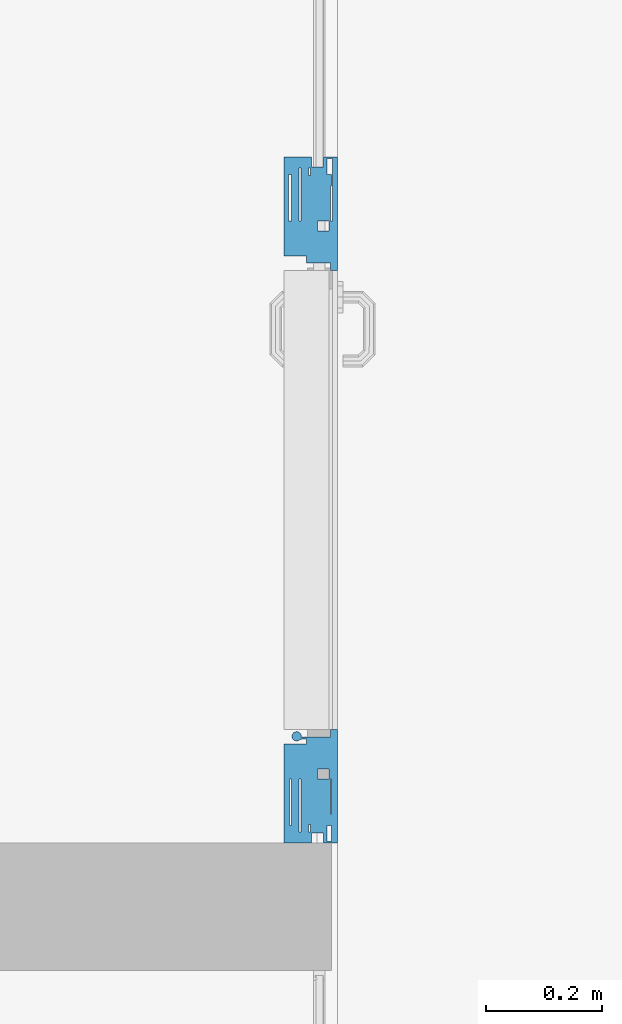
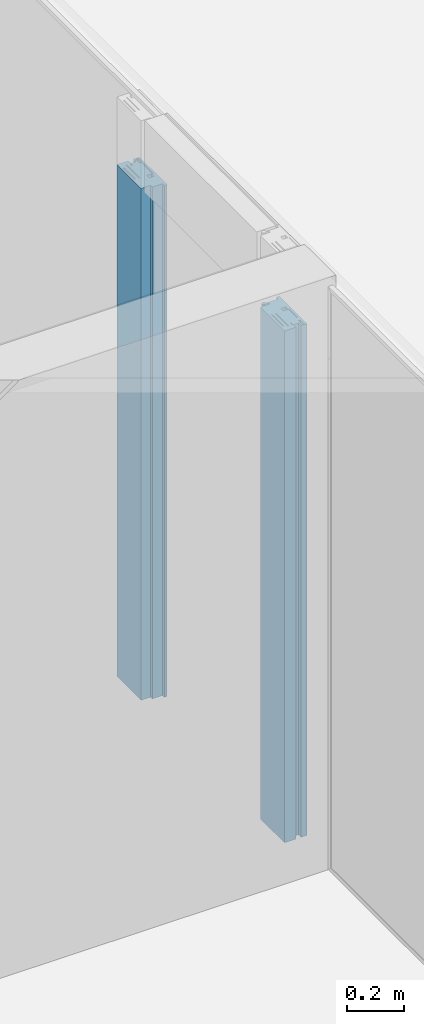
# One storey, part 3 of 79: 2 members, 1 element without a shape of its own.
"""IFC2X3 building model written with IfcOpenShell, lengths in millimetres."""

from ifc_helpers import new_model, entity, si_unit, converted_unit, derived_unit, money_unit, direction, frame, origin_with_axes, place, context, subcontext, project, spatial, faceted_brep, source, transform, mapped, material, material_list, type_object, element, aggregate, save


model = new_model("IFC2X3")

# Units and contexts
model_context = context("Model", 3, precision=0.01, world=origin_with_axes(), true_north=direction((0.0, 1.0)))
body_context = subcontext(model_context, "Body", "Model", "MODEL_VIEW")
ifc_project = project(units=[si_unit("LENGTHUNIT", "METRE", prefix="MILLI"), si_unit("AREAUNIT", "SQUARE_METRE"), si_unit("VOLUMEUNIT", "CUBIC_METRE"), converted_unit("PLANEANGLEUNIT", "DEGREE", entity("IfcPlaneAngleMeasure", 0.0174532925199), si_unit("PLANEANGLEUNIT", "RADIAN"), dimensions=[0, 0, 0, 0, 0, 0, 0]), si_unit("SOLIDANGLEUNIT", "STERADIAN"), money_unit("EUR"), converted_unit("TIMEUNIT", "Year", entity("IfcTimeMeasure", 31556926.0), si_unit("TIMEUNIT", "SECOND"), dimensions=[0, 0, 1, 0, 0, 0, 0]), si_unit("MASSUNIT", "GRAM", prefix="KILO"), si_unit("THERMODYNAMICTEMPERATUREUNIT", "DEGREE_CELSIUS"), si_unit("LUMINOUSINTENSITYUNIT", "LUMEN"), si_unit("ENERGYUNIT", "JOULE", prefix="MEGA"), derived_unit("THERMALCONDUCTANCEUNIT", [(si_unit("POWERUNIT", "WATT"), 1), (si_unit("LENGTHUNIT", "METRE"), -1), (si_unit("THERMODYNAMICTEMPERATUREUNIT", "KELVIN"), -1)]), derived_unit("SPECIFICHEATCAPACITYUNIT", [(si_unit("ENERGYUNIT", "JOULE"), 1), (si_unit("MASSUNIT", "GRAM", prefix="KILO"), -1), (si_unit("THERMODYNAMICTEMPERATUREUNIT", "KELVIN"), -1)]), derived_unit("MASSDENSITYUNIT", [(si_unit("MASSUNIT", "GRAM", prefix="KILO"), 1), (si_unit("VOLUMEUNIT", "CUBIC_METRE"), -1)])], contexts=[model_context])

# Site, building, storey
site_placement = place(None, origin_with_axes())
site = spatial("IfcSite", under=ifc_project, at=site_placement, Name="L.Koidula tn 11b", CompositionType="ELEMENT")
building_placement = place(site_placement, origin_with_axes())
building = spatial("IfcBuilding", under=site, at=building_placement, Name="Rakvere Riigigümnaasium", CompositionType="ELEMENT")
storey_placement = place(building_placement, frame((0.0, 0.0, 3720.0), z_axis=(0.0, 0.0, 1.0), x_axis=(1.0, 0.0, 0.0)))
storey = spatial("IfcBuildingStorey", under=building, at=storey_placement, Name="2.korrus +3,72", CompositionType="ELEMENT", Elevation=3720.0)

# Curtain wall, members
curtain_wall_type = type_object("IfcCurtainWallType", Name="Curtain Wall Type", PredefinedType="NOTDEFINED")
curtain_wall_placement = place(storey_placement, frame((41130.9157939, 20570.4555219, 2.41342252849e-05), z_axis=(0.0, 0.0, 1.0), x_axis=(1.0, 0.0, 0.0)))
curtain_wall = element("IfcCurtainWall", 1, at=curtain_wall_placement, inside=storey, type_object=curtain_wall_type, Name="SKLF-13")
ifc_material_1 = material(Name="Puit")
ifc_material_2 = material(Name="Klaasvill")
ifc_material_3 = material(Name="MDF")
ifc_material_4 = material(Name="Alumiiniumprofiil")
ifc_material_5 = material(Name="Teras")
ifc_material_list_1 = material_list([ifc_material_1, ifc_material_2, ifc_material_3, ifc_material_4, ifc_material_5])
member_type_1 = type_object("IfcMemberType", Name="Siseklaasfassaad - Ukseraam hing- klaasita-2 195 x 29", PredefinedType="MULLION")
shared_shape_1 = source(origin_with_axes(), body_context, "Body", "Brep", [
    faceted_brep([(139.859682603, -15.116905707, 0.0), (181.717061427, -15.116905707, 0.0), (181.717061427, -15.116905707, 2200.0), (139.859682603, -15.116905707, 2200.0), (139.859682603, 50.9999990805, 0.0), (169.859682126, 50.9999990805, 0.0), (169.859683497, 23.9999989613, 0.0), (178.395629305, 23.9999989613, 0.0), (178.395629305, -8.00000062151, 0.0), (181.855103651, -8.00000062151, 0.0), (181.855103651, -15.116905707, 0.0), (181.855103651, -15.116905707, 2200.0), (181.855103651, -8.00000062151, 2200.0), (178.395629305, -8.00000062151, 2200.0), (178.395629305, 23.9999989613, 2200.0), (169.859683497, 23.9999989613, 2200.0), (169.859682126, 50.9999990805, 2200.0), (139.859682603, 50.9999990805, 2200.0)], [[[0, 1, 2, 3]], [[0, 4, 5, 6, 7, 8, 9, 10, 1]], [[1, 10, 11, 2]], [[3, 2, 11, 12, 13, 14, 15, 16, 17]], [[4, 0, 3, 17]], [[5, 4, 17, 16]], [[6, 5, 16, 15]], [[7, 6, 15, 14]], [[8, 7, 14, 13]], [[9, 8, 13, 12]], [[10, 9, 12, 11]]]),
    faceted_brep([(31.9999999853, 20.4981590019, 0.0), (31.9999999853, 17.3999984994, 0.0), (31.9999999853, 17.3999984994, 2200.0), (31.9999999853, 20.4981590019, 2200.0), (109.856776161, 20.498157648, 0.0), (109.856777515, 5.39999855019, 0.0), (109.856777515, -15.0000008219, 0.0), (109.856777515, -16.9999999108, 0.0), (50.0000012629, -17.0000026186, 0.0), (31.9999999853, -16.9999999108, 0.0), (31.9999999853, -10.9998686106, 0.0), (31.9999999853, -4.99999996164, 0.0), (31.9999999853, -4.99999996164, 2200.0), (31.9999999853, -10.9998686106, 2200.0), (31.9999999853, -16.9999999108, 2200.0), (50.0000012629, -17.0000026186, 2200.0), (109.856777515, -16.9999999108, 2200.0), (109.856777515, -15.0000008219, 2200.0), (109.856777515, 5.39999855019, 2200.0), (109.856776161, 20.498157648, 2200.0)], [[[0, 1, 2, 3]], [[0, 4, 5, 6, 7, 8, 9, 10, 11, 1]], [[1, 11, 12, 2]], [[3, 2, 12, 13, 14, 15, 16, 17, 18, 19]], [[4, 0, 3, 19]], [[5, 4, 19, 18]], [[6, 5, 18, 17]], [[7, 6, 17, 16]], [[8, 7, 16, 15]], [[9, 8, 15, 14]], [[10, 9, 14, 13]], [[11, 10, 13, 12]]]),
    faceted_brep([(2.00000016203, -18.9999768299, 0.0), (2.00000016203, -28.9999775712, 0.0), (2.00000016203, -28.9999775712, 2200.0), (2.00000016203, -18.9999768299, 2200.0), (29.9999993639, -18.9999998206, 0.0), (31.9999995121, -18.9999998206, 0.0), (50.0000008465, -18.9999998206, 0.0), (109.856776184, -18.9999797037, 0.0), (192.859682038, -18.9999768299, 0.0), (192.859682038, -28.9999775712, 0.0), (192.859682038, -28.9999775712, 2200.0), (192.859682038, -18.9999768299, 2200.0), (109.856776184, -18.9999797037, 2200.0), (50.0000008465, -18.9999998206, 2200.0), (31.9999995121, -18.9999998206, 2200.0), (29.9999993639, -18.9999998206, 2200.0)], [[[0, 1, 2, 3]], [[0, 4, 5, 6, 7, 8, 9, 1]], [[1, 9, 10, 2]], [[3, 2, 10, 11, 12, 13, 14, 15]], [[4, 0, 3, 15]], [[5, 4, 15, 14]], [[6, 5, 14, 13]], [[7, 6, 13, 12]], [[8, 7, 12, 11]], [[9, 8, 11, 10]]]),
    faceted_brep([(167.859682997, 63.0000007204, 0.0), (1.99999972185, 62.9999978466, 0.0), (1.99999972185, 62.9999978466, 2200.0), (167.859682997, 63.0000007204, 2200.0), (167.859682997, 52.9999999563, 0.0), (139.859683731, 52.9999999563, 0.0), (109.85677599, 52.9999999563, 0.0), (29.9999989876, 52.9999970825, 0.0), (18.6712801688, 52.9999970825, 0.0), (1.99999972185, 52.9999999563, 0.0), (1.99999972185, 52.9999999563, 2200.0), (18.6712801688, 52.9999970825, 2200.0), (29.9999989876, 52.9999970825, 2200.0), (109.85677599, 52.9999999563, 2200.0), (139.859683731, 52.9999999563, 2200.0), (167.859682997, 52.9999999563, 2200.0)], [[[0, 1, 2, 3]], [[0, 4, 5, 6, 7, 8, 9, 1]], [[1, 9, 10, 2]], [[3, 2, 10, 11, 12, 13, 14, 15]], [[4, 0, 3, 15]], [[5, 4, 15, 14]], [[6, 5, 14, 13]], [[7, 6, 13, 12]], [[8, 7, 12, 11]], [[9, 8, 11, 10]]]),
    faceted_brep([(18.9999998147, 33.492630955, 0.0), (18.9999998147, 20.5001075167, 0.0), (18.9999998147, 20.5001075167, 2200.0), (18.9999998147, 33.492630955, 2200.0), (109.856776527, 33.4906812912, 0.0), (109.856776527, 20.4981578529, 0.0), (31.9999999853, 20.4981590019, 0.0), (31.9999999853, 20.4981590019, 2200.0), (109.856776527, 20.4981578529, 2200.0), (109.856776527, 33.4906812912, 2200.0)], [[[0, 1, 2, 3]], [[0, 4, 5, 6, 1]], [[1, 6, 7, 2]], [[3, 2, 7, 8, 9]], [[4, 0, 3, 9]], [[5, 4, 9, 8]], [[6, 5, 8, 7]]]),
    faceted_brep([(109.854989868, 49.9999988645, 0.0), (19.0000000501, 50.0001085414, 0.0), (19.0000000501, 50.0001085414, 2200.0), (109.854989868, 49.9999988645, 2200.0), (109.854989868, 36.9999990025, 0.0), (19.0000000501, 37.0001070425, 0.0), (19.0000000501, 37.0001070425, 2200.0), (109.854989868, 36.9999990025, 2200.0)], [[[0, 1, 2, 3]], [[0, 4, 5, 1]], [[1, 5, 6, 2]], [[3, 2, 6, 7]], [[4, 0, 3, 7]], [[5, 4, 7, 6]]]),
    faceted_brep([(109.856776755, 52.9999991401, 0.0), (109.854989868, 49.9999988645, 0.0), (109.854989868, 49.9999988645, 2200.0), (109.856776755, 52.9999991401, 2200.0), (139.859682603, 52.9999991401, 0.0), (167.859682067, 52.9999991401, 0.0), (167.859682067, 62.9999994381, 0.0), (169.859682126, 62.9999994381, 0.0), (169.859682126, 54.9999991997, 0.0), (169.859682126, 50.9999990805, 0.0), (139.859682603, 50.9999990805, 0.0), (139.859682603, -15.116905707, 0.0), (181.717061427, -15.116905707, 0.0), (181.717061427, -17.0000002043, 0.0), (194.859682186, -17.0000002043, 0.0), (194.859682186, -20.0740464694, 0.0), (194.859682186, -29.0000005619, 0.0), (192.859683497, -29.0000005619, 0.0), (192.859683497, -18.9999783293, 0.0), (109.856776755, -18.9999783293, 0.0), (109.856777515, -16.9999999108, 0.0), (109.856776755, -15.0000001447, 0.0), (126.859682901, -15.0000001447, 0.0), (126.859682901, 5.39999991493, 0.0), (109.856776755, 5.39999991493, 0.0), (109.856776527, 20.4981578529, 0.0), (109.856776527, 33.4906812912, 0.0), (109.854989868, 36.9999990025, 0.0), (109.854989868, 36.9999990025, 2200.0), (109.856776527, 33.4906812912, 2200.0), (109.856776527, 20.4981578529, 2200.0), (109.856776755, 5.39999991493, 2200.0), (126.859682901, 5.39999991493, 2200.0), (126.859682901, -15.0000001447, 2200.0), (109.856776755, -15.0000001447, 2200.0), (109.856777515, -16.9999999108, 2200.0), (109.856776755, -18.9999783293, 2200.0), (192.859683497, -18.9999783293, 2200.0), (192.859683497, -29.0000005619, 2200.0), (194.859682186, -29.0000005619, 2200.0), (194.859682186, -20.0740464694, 2200.0), (194.859682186, -17.0000002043, 2200.0), (181.717061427, -17.0000002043, 2200.0), (181.717061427, -15.116905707, 2200.0), (139.859682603, -15.116905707, 2200.0), (139.859682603, 50.9999990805, 2200.0), (169.859682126, 50.9999990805, 2200.0), (169.859682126, 54.9999991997, 2200.0), (169.859682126, 62.9999994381, 2200.0), (167.859682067, 62.9999994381, 2200.0), (167.859682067, 52.9999991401, 2200.0), (139.859682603, 52.9999991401, 2200.0)], [[[0, 1, 2, 3]], [[0, 4, 5, 6, 7, 8, 9, 10, 11, 12, 13, 14, 15, 16, 17, 18, 19, 20, 21, 22, 23, 24, 25, 26, 27, 1]], [[1, 27, 28, 2]], [[3, 2, 28, 29, 30, 31, 32, 33, 34, 35, 36, 37, 38, 39, 40, 41, 42, 43, 44, 45, 46, 47, 48, 49, 50, 51]], [[4, 0, 3, 51]], [[5, 4, 51, 50]], [[6, 5, 50, 49]], [[7, 6, 49, 48]], [[8, 7, 48, 47]], [[9, 8, 47, 46]], [[10, 9, 46, 45]], [[11, 10, 45, 44]], [[12, 11, 44, 43]], [[13, 12, 43, 42]], [[14, 13, 42, 41]], [[15, 14, 41, 40]], [[16, 15, 40, 39]], [[17, 16, 39, 38]], [[18, 17, 38, 37]], [[19, 18, 37, 36]], [[20, 19, 36, 35]], [[21, 20, 35, 34]], [[22, 21, 34, 33]], [[23, 22, 33, 32]], [[24, 23, 32, 31]], [[25, 24, 31, 30]], [[26, 25, 30, 29]], [[27, 26, 29, 28]]]),
    faceted_brep([(0.0, 62.9999994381, 0.0), (0.0, 15.3999992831, 0.0), (0.0, 15.3999992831, 2200.0), (0.0, 62.9999994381, 2200.0), (1.99999958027, 62.9999994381, 0.0), (2.00000095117, 52.999998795, 0.0), (18.6712817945, 52.999998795, 0.0), (29.9999991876, 52.999998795, 0.0), (29.9999991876, 50.0001084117, 0.0), (19.0000008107, 50.0001084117, 0.0), (19.0000000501, 37.0001070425, 0.0), (18.9999998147, 33.492630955, 0.0), (18.9999998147, 20.5001075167, 0.0), (19.0000008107, 17.3999988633, 0.0), (32.0000001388, 17.3999988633, 0.0), (32.0000001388, -5.0, 0.0), (32.0000001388, -10.9998685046, 0.0), (32.0000001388, -17.0000015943, 0.0), (50.0000004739, -17.0000015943, 0.0), (50.0000004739, -18.9999998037, 0.0), (32.0000001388, -18.9999998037, 0.0), (30.0000005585, -18.9999998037, 0.0), (30.0000005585, -17.0000015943, 0.0), (30.0000005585, -10.9998685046, 0.0), (2.00000095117, -10.9998685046, 0.0), (2.00000016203, -18.9999768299, 0.0), (2.00000095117, -28.9999785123, 0.0), (0.0, -28.9999785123, 0.0), (0.0, -5.0, 0.0), (2.00000095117, -5.0, 0.0), (16.9999998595, -5.0, 0.0), (16.9999998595, 15.3999992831, 0.0), (16.9999998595, 15.3999992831, 2200.0), (16.9999998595, -5.0, 2200.0), (2.00000095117, -5.0, 2200.0), (0.0, -5.0, 2200.0), (0.0, -28.9999785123, 2200.0), (2.00000095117, -28.9999785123, 2200.0), (2.00000016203, -18.9999768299, 2200.0), (2.00000095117, -10.9998685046, 2200.0), (30.0000005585, -10.9998685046, 2200.0), (30.0000005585, -17.0000015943, 2200.0), (30.0000005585, -18.9999998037, 2200.0), (32.0000001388, -18.9999998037, 2200.0), (50.0000004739, -18.9999998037, 2200.0), (50.0000004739, -17.0000015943, 2200.0), (32.0000001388, -17.0000015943, 2200.0), (32.0000001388, -10.9998685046, 2200.0), (32.0000001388, -5.0, 2200.0), (32.0000001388, 17.3999988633, 2200.0), (19.0000008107, 17.3999988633, 2200.0), (18.9999998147, 20.5001075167, 2200.0), (18.9999998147, 33.492630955, 2200.0), (19.0000000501, 37.0001070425, 2200.0), (19.0000008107, 50.0001084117, 2200.0), (29.9999991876, 50.0001084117, 2200.0), (29.9999991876, 52.999998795, 2200.0), (18.6712817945, 52.999998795, 2200.0), (2.00000095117, 52.999998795, 2200.0), (1.99999958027, 62.9999994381, 2200.0)], [[[0, 1, 2, 3]], [[0, 4, 5, 6, 7, 8, 9, 10, 11, 12, 13, 14, 15, 16, 17, 18, 19, 20, 21, 22, 23, 24, 25, 26, 27, 28, 29, 30, 31, 1]], [[1, 31, 32, 2]], [[3, 2, 32, 33, 34, 35, 36, 37, 38, 39, 40, 41, 42, 43, 44, 45, 46, 47, 48, 49, 50, 51, 52, 53, 54, 55, 56, 57, 58, 59]], [[4, 0, 3, 59]], [[5, 4, 59, 58]], [[6, 5, 58, 57]], [[7, 6, 57, 56]], [[8, 7, 56, 55]], [[9, 8, 55, 54]], [[10, 9, 54, 53]], [[11, 10, 53, 52]], [[12, 11, 52, 51]], [[13, 12, 51, 50]], [[14, 13, 50, 49]], [[15, 14, 49, 48]], [[16, 15, 48, 47]], [[17, 16, 47, 46]], [[18, 17, 46, 45]], [[19, 18, 45, 44]], [[20, 19, 44, 43]], [[21, 20, 43, 42]], [[22, 21, 42, 41]], [[23, 22, 41, 40]], [[24, 23, 40, 39]], [[25, 24, 39, 38]], [[26, 25, 38, 37]], [[27, 26, 37, 36]], [[28, 27, 36, 35]], [[29, 28, 35, 34]], [[30, 29, 34, 33]], [[31, 30, 33, 32]]]),
    faceted_brep([(191.287294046, 42.0314837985, 0.0), (189.304437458, 46.4929115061, 0.0), (189.304437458, 46.4929115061, 2200.0), (191.287294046, 42.0314837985, 2200.0), (191.287294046, 39.5529134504, 0.0), (190.543723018, 37.0712444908, 0.0), (188.808723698, 35.0883879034, 0.0), (186.82586711, 33.6012450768, 0.0), (184.34729599, 32.8576740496, 0.0), (181.86562703, 33.1055313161, 0.0), (181.658588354, 33.5817206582, 0.0), (181.86562703, 32.1141030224, 0.0), (181.855103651, -8.00000062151, 0.0), (178.395628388, -8.00000056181, 0.0), (178.395629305, 23.9999989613, 0.0), (178.395628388, 31.1195761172, 0.0), (178.147771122, 33.1055313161, 0.0), (177.404200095, 34.840530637, 0.0), (176.164914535, 37.3221995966, 0.0), (175.421343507, 39.7976721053, 0.0), (175.421343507, 42.279341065, 0.0), (176.164914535, 44.7579114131, 0.0), (177.652057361, 46.7407680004, 0.0), (179.882770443, 48.227910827, 0.0), (182.364439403, 48.9714818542, 0.0), (184.843010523, 48.9714818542, 0.0), (187.073723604, 47.9800535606, 0.0), (187.073723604, 47.9800535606, 2200.0), (184.843010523, 48.9714818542, 2200.0), (182.364439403, 48.9714818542, 2200.0), (179.882770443, 48.227910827, 2200.0), (177.652057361, 46.7407680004, 2200.0), (176.164914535, 44.7579114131, 2200.0), (175.421343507, 42.279341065, 2200.0), (175.421343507, 39.7976721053, 2200.0), (176.164914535, 37.3221995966, 2200.0), (177.404200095, 34.840530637, 2200.0), (178.147771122, 33.1055313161, 2200.0), (178.395628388, 31.1195761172, 2200.0), (178.395629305, 23.9999989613, 2200.0), (178.395628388, -8.00000056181, 2200.0), (181.855103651, -8.00000062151, 2200.0), (181.86562703, 32.1141030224, 2200.0), (181.658588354, 33.5817206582, 2200.0), (181.86562703, 33.1055313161, 2200.0), (184.34729599, 32.8576740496, 2200.0), (186.82586711, 33.6012450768, 2200.0), (188.808723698, 35.0883879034, 2200.0), (190.543723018, 37.0712444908, 2200.0), (191.287294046, 39.5529134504, 2200.0)], [[[0, 1, 2, 3]], [[0, 4, 5, 6, 7, 8, 9, 10, 11, 12, 13, 14, 15, 16, 17, 18, 19, 20, 21, 22, 23, 24, 25, 26, 1]], [[1, 26, 27, 2]], [[3, 2, 27, 28, 29, 30, 31, 32, 33, 34, 35, 36, 37, 38, 39, 40, 41, 42, 43, 44, 45, 46, 47, 48, 49]], [[4, 0, 3, 49]], [[5, 4, 49, 48]], [[6, 5, 48, 47]], [[7, 6, 47, 46]], [[8, 7, 46, 45]], [[9, 8, 45, 44]], [[10, 9, 44, 43]], [[11, 10, 43, 42]], [[12, 11, 42, 41]], [[13, 12, 41, 40]], [[14, 13, 40, 39]], [[15, 14, 39, 38]], [[16, 15, 38, 37]], [[17, 16, 37, 36]], [[18, 17, 36, 35]], [[19, 18, 35, 34]], [[20, 19, 34, 33]], [[21, 20, 33, 32]], [[22, 21, 32, 31]], [[23, 22, 31, 30]], [[24, 23, 30, 29]], [[25, 24, 29, 28]], [[26, 25, 28, 27]]]),
])
member_1_placement = place(curtain_wall_placement, frame((-0.0222601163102, -519.999999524, -2.41342252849e-05), z_axis=(0.0, 0.0, 1.0), x_axis=(-4.28079159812e-05, -0.999999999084, 0.0)))
member_1 = element("IfcMember", 2, at=member_1_placement, type_object=member_type_1, material=ifc_material_list_1, Name="Frame-Siseklaasf-001", ObjectType="MULLION", context=body_context, shape_type="MappedRepresentation", body=[
    mapped(shared_shape_1, transform((0.0, 0.0, 0.0), x_axis=(-1.0, 0.0, 0.0), y_axis=(0.0, -1.0, 0.0), z_axis=(0.0, 0.0, 1.0))),
])
ifc_material_list_2 = material_list([ifc_material_1, ifc_material_3, ifc_material_2, ifc_material_4])
member_type_2 = type_object("IfcMemberType", Name="Siseklaasfassaad - Ukseraam-2 195 x 29", PredefinedType="MULLION")
shared_shape_2 = source(origin_with_axes(), body_context, "Body", "Brep", [
    faceted_brep([(0.0, 50.8404412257, 0.0), (0.0, 50.8404412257, 2200.0), (0.0, -15.2764635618, 2200.0), (0.0, -15.2764635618, 0.0), (-29.9999995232, 50.8404412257, 0.0), (-29.9999995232, 50.8404412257, 2200.0), (-30.0000008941, 23.8404411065, 2200.0), (-41.9954210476, 23.8404411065, 2200.0), (-41.9954210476, -8.15955847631, 2200.0), (-41.9954210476, -15.2764635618, 2200.0), (-41.8573788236, -15.2764635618, 2200.0), (-41.8573788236, -15.2764635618, 0.0), (-41.9954210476, -15.2764635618, 0.0), (-41.9954210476, -8.15955847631, 0.0), (-41.9954210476, 23.8404411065, 0.0), (-30.0000008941, 23.8404411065, 0.0)], [[[0, 1, 2, 3]], [[4, 5, 1, 0]], [[1, 5, 6, 7, 8, 9, 10, 2]], [[3, 2, 10, 11]], [[0, 3, 11, 12, 13, 14, 15, 4]], [[15, 6, 5, 4]], [[14, 7, 6, 15]], [[13, 8, 7, 14]], [[12, 9, 8, 13]], [[11, 10, 9, 12]]]),
    faceted_brep([(137.859682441, -21.159534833, 0.0), (137.859682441, -21.159534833, 2200.0), (137.859682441, -29.159535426, 2200.0), (137.859682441, -29.159535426, 0.0), (30.0029064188, -21.1595377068, 0.0), (30.0029064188, -21.1595377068, 2200.0), (-52.9999994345, -21.1595377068, 2200.0), (-52.9999994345, -29.1595584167, 2200.0), (-52.9999994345, -29.1595584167, 0.0), (-52.9999994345, -21.1595377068, 0.0)], [[[0, 1, 2, 3]], [[4, 5, 1, 0]], [[1, 5, 6, 7, 2]], [[3, 2, 7, 8]], [[0, 3, 8, 9, 4]], [[9, 6, 5, 4]], [[8, 7, 6, 9]]]),
    faceted_brep([(137.859682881, 54.8404422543, 0.0), (137.859682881, 54.8404422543, 2200.0), (121.188402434, 54.8405744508, 2200.0), (121.188402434, 54.8405744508, 0.0), (137.859682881, 62.8404399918, 0.0), (137.859682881, 62.8404399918, 2200.0), (-28.0000003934, 62.8404428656, 2200.0), (-28.0000003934, 54.8404422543, 2200.0), (-1.12771575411e-06, 54.8404422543, 2200.0), (30.0029066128, 54.8404422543, 2200.0), (109.859683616, 54.8405744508, 2200.0), (109.859683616, 54.8405744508, 0.0), (30.0029066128, 54.8404422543, 0.0), (-1.12771575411e-06, 54.8404422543, 0.0), (-28.0000003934, 54.8404422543, 0.0), (-28.0000003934, 62.8404428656, 0.0)], [[[0, 1, 2, 3]], [[4, 5, 1, 0]], [[1, 5, 6, 7, 8, 9, 10, 2]], [[3, 2, 10, 11]], [[0, 3, 11, 12, 13, 14, 15, 4]], [[15, 6, 5, 4]], [[14, 7, 6, 15]], [[13, 8, 7, 14]], [[12, 9, 8, 13]], [[11, 10, 9, 12]]]),
    faceted_brep([(120.859682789, 33.3330734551, 0.0), (120.859682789, 33.3330734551, 2200.0), (120.859682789, 20.34054937, 2200.0), (120.859682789, 20.34054937, 0.0), (30.0029064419, 33.3311238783, 0.0), (30.0029064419, 33.3311238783, 2200.0), (30.0029050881, 20.3386011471, 2200.0), (107.859682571, 20.338601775, 2200.0), (107.859682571, 20.338601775, 0.0), (30.0029050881, 20.3386011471, 0.0)], [[[0, 1, 2, 3]], [[4, 5, 1, 0]], [[1, 5, 6, 7, 2]], [[3, 2, 7, 8]], [[0, 3, 8, 9, 4]], [[9, 6, 5, 4]], [[8, 7, 6, 9]]]),
    faceted_brep([(120.859682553, 49.8405506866, 0.0), (120.859682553, 49.8405506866, 2200.0), (120.859682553, 36.8405491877, 2200.0), (120.859682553, 36.8405491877, 0.0), (109.8596833, 49.8405506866, 0.0), (109.8596833, 49.8405506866, 2200.0), (30.0046927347, 49.8404410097, 2200.0), (30.0046927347, 36.8404411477, 2200.0), (30.0046927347, 36.8404411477, 0.0), (30.0046927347, 49.8404410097, 0.0)], [[[0, 1, 2, 3]], [[4, 5, 1, 0]], [[1, 5, 6, 7, 2]], [[3, 2, 7, 8]], [[0, 3, 8, 9, 4]], [[9, 6, 5, 4]], [[8, 7, 6, 9]]]),
    faceted_brep([(107.859682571, 20.338601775, 0.0), (107.859682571, 20.338601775, 2200.0), (107.859682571, -5.15955767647, 2200.0), (107.859682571, -5.15955767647, 0.0), (30.0029050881, 20.338601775, 0.0), (30.0029050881, 20.338601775, 2200.0), (30.0029050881, 5.24044086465, 2200.0), (30.0029050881, -15.1595587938, 2200.0), (30.0029050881, -17.1595580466, 2200.0), (89.8596820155, -17.1595604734, 2200.0), (107.859682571, -17.1595604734, 2200.0), (107.859682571, -11.1594268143, 2200.0), (107.859682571, -11.1594268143, 0.0), (107.859682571, -17.1595604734, 0.0), (89.8596820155, -17.1595604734, 0.0), (30.0029050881, -17.1595580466, 0.0), (30.0029050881, -15.1595587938, 0.0), (30.0029050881, 5.24044086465, 0.0)], [[[0, 1, 2, 3]], [[4, 5, 1, 0]], [[1, 5, 6, 7, 8, 9, 10, 11, 2]], [[3, 2, 11, 12]], [[0, 3, 12, 13, 14, 15, 16, 17, 4]], [[17, 6, 5, 4]], [[16, 7, 6, 17]], [[15, 8, 7, 16]], [[14, 9, 8, 15]], [[13, 10, 9, 14]], [[12, 11, 10, 13]]]),
    faceted_brep([(30.0029058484, 54.8404413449, 0.0), (30.0029058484, 54.8404413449, 2200.0), (30.0046927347, 49.8404410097, 2200.0), (30.0046927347, 49.8404410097, 0.0), (0.0, 54.8404413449, 0.0), (0.0, 54.8404413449, 2200.0), (-27.9999994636, 54.8404413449, 2200.0), (-27.9999994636, 62.8404415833, 2200.0), (-29.9999995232, 62.8404415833, 2200.0), (-29.9999995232, 54.8404413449, 2200.0), (-29.9999995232, 50.8404412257, 2200.0), (0.0, 50.8404412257, 2200.0), (0.0, -15.2764635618, 2200.0), (-41.8573788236, -15.2764635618, 2200.0), (-41.8573788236, -17.1595580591, 2200.0), (-54.9999995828, -17.1595580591, 2200.0), (-54.9999995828, -20.2336043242, 2200.0), (-54.9999995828, -29.1595584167, 2200.0), (-53.0000007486, -29.1595584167, 2200.0), (-53.0000007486, -21.1595363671, 2200.0), (30.0029058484, -21.1595363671, 2200.0), (30.0029050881, -17.1595580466, 2200.0), (30.0029058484, -15.1595579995, 2200.0), (12.999999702, -15.1595579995, 2200.0), (12.999999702, 5.24044206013, 2200.0), (30.0029058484, 5.24044206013, 2200.0), (30.0029050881, 20.3386011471, 2200.0), (30.0029064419, 33.3311238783, 2200.0), (30.0046927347, 36.8404411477, 2200.0), (30.0046927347, 36.8404411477, 0.0), (30.0029064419, 33.3311238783, 0.0), (30.0029050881, 20.3386011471, 0.0), (30.0029058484, 5.24044206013, 0.0), (12.999999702, 5.24044206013, 0.0), (12.999999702, -15.1595579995, 0.0), (30.0029058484, -15.1595579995, 0.0), (30.0029050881, -17.1595580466, 0.0), (30.0029058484, -21.1595363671, 0.0), (-53.0000007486, -21.1595363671, 0.0), (-53.0000007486, -29.1595584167, 0.0), (-54.9999995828, -29.1595584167, 0.0), (-54.9999995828, -20.2336043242, 0.0), (-54.9999995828, -17.1595580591, 0.0), (-41.8573788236, -17.1595580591, 0.0), (-41.8573788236, -15.2764635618, 0.0), (0.0, -15.2764635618, 0.0), (0.0, 50.8404412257, 0.0), (-29.9999995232, 50.8404412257, 0.0), (-29.9999995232, 54.8404413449, 0.0), (-29.9999995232, 62.8404415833, 0.0), (-27.9999994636, 62.8404415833, 0.0), (-27.9999994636, 54.8404413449, 0.0)], [[[0, 1, 2, 3]], [[4, 5, 1, 0]], [[1, 5, 6, 7, 8, 9, 10, 11, 12, 13, 14, 15, 16, 17, 18, 19, 20, 21, 22, 23, 24, 25, 26, 27, 28, 2]], [[3, 2, 28, 29]], [[0, 3, 29, 30, 31, 32, 33, 34, 35, 36, 37, 38, 39, 40, 41, 42, 43, 44, 45, 46, 47, 48, 49, 50, 51, 4]], [[51, 6, 5, 4]], [[50, 7, 6, 51]], [[49, 8, 7, 50]], [[48, 9, 8, 49]], [[47, 10, 9, 48]], [[46, 11, 10, 47]], [[45, 12, 11, 46]], [[44, 13, 12, 45]], [[43, 14, 13, 44]], [[42, 15, 14, 43]], [[41, 16, 15, 42]], [[40, 17, 16, 41]], [[39, 18, 17, 40]], [[38, 19, 18, 39]], [[37, 20, 19, 38]], [[36, 21, 20, 37]], [[35, 22, 21, 36]], [[34, 23, 22, 35]], [[33, 24, 23, 34]], [[32, 25, 24, 33]], [[31, 26, 25, 32]], [[30, 27, 26, 31]], [[29, 28, 27, 30]]]),
    faceted_brep([(139.859682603, 62.8404415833, 0.0), (139.859682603, 62.8404415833, 2200.0), (139.859682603, 15.2404414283, 2200.0), (139.859682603, 15.2404414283, 0.0), (137.859683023, 62.8404415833, 0.0), (137.859683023, 62.8404415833, 2200.0), (137.859681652, 54.8405734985, 2200.0), (121.188400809, 54.8405734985, 2200.0), (109.859683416, 54.8405734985, 2200.0), (109.859683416, 53.8404414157, 2200.0), (109.859683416, 49.8405505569, 2200.0), (120.859681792, 49.8405505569, 2200.0), (120.859682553, 36.8405491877, 2200.0), (120.859682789, 33.3330734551, 2200.0), (120.859682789, 20.34054937, 2200.0), (120.859681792, 17.2404410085, 2200.0), (107.859682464, 17.2404410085, 2200.0), (107.859682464, -5.1595578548, 2200.0), (107.859682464, -11.1594263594, 2200.0), (107.859682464, -17.1595594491, 2200.0), (89.8596821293, -17.1595594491, 2200.0), (89.8596821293, -19.1595576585, 2200.0), (107.859682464, -19.1595576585, 2200.0), (109.859682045, -19.1595576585, 2200.0), (109.859682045, -17.1595594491, 2200.0), (109.859682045, -11.1594263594, 2200.0), (137.859681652, -11.1594263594, 2200.0), (137.859682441, -21.159534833, 2200.0), (137.859681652, -29.1595363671, 2200.0), (139.859682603, -29.1595363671, 2200.0), (139.859682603, -5.1595578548, 2200.0), (137.859681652, -5.1595578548, 2200.0), (122.859682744, -5.1595578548, 2200.0), (122.859682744, 15.2404414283, 2200.0), (122.859682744, 15.2404414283, 0.0), (122.859682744, -5.1595578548, 0.0), (137.859681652, -5.1595578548, 0.0), (139.859682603, -5.1595578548, 0.0), (139.859682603, -29.1595363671, 0.0), (137.859681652, -29.1595363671, 0.0), (137.859682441, -21.159534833, 0.0), (137.859681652, -11.1594263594, 0.0), (109.859682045, -11.1594263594, 0.0), (109.859682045, -17.1595594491, 0.0), (109.859682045, -19.1595576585, 0.0), (107.859682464, -19.1595576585, 0.0), (89.8596821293, -19.1595576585, 0.0), (89.8596821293, -17.1595594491, 0.0), (107.859682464, -17.1595594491, 0.0), (107.859682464, -11.1594263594, 0.0), (107.859682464, -5.1595578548, 0.0), (107.859682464, 17.2404410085, 0.0), (120.859681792, 17.2404410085, 0.0), (120.859682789, 20.34054937, 0.0), (120.859682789, 33.3330734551, 0.0), (120.859682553, 36.8405491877, 0.0), (120.859681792, 49.8405505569, 0.0), (109.859683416, 49.8405505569, 0.0), (109.859683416, 53.8404414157, 0.0), (109.859683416, 54.8405734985, 0.0), (121.188400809, 54.8405734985, 0.0), (137.859681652, 54.8405734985, 0.0)], [[[0, 1, 2, 3]], [[4, 5, 1, 0]], [[1, 5, 6, 7, 8, 9, 10, 11, 12, 13, 14, 15, 16, 17, 18, 19, 20, 21, 22, 23, 24, 25, 26, 27, 28, 29, 30, 31, 32, 33, 2]], [[3, 2, 33, 34]], [[0, 3, 34, 35, 36, 37, 38, 39, 40, 41, 42, 43, 44, 45, 46, 47, 48, 49, 50, 51, 52, 53, 54, 55, 56, 57, 58, 59, 60, 61, 4]], [[61, 6, 5, 4]], [[60, 7, 6, 61]], [[59, 8, 7, 60]], [[58, 9, 8, 59]], [[57, 10, 9, 58]], [[56, 11, 10, 57]], [[55, 12, 11, 56]], [[54, 13, 12, 55]], [[53, 14, 13, 54]], [[52, 15, 14, 53]], [[51, 16, 15, 52]], [[50, 17, 16, 51]], [[49, 18, 17, 50]], [[48, 19, 18, 49]], [[47, 20, 19, 48]], [[46, 21, 20, 47]], [[45, 22, 21, 46]], [[44, 23, 22, 45]], [[43, 24, 23, 44]], [[42, 25, 24, 43]], [[41, 26, 25, 42]], [[40, 27, 26, 41]], [[39, 28, 27, 40]], [[38, 29, 28, 39]], [[37, 30, 29, 38]], [[36, 31, 30, 37]], [[35, 32, 31, 36]], [[34, 33, 32, 35]]]),
])
member_2_placement = place(curtain_wall_placement, frame((0.0222601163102, 519.999999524, -2.41342252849e-05), z_axis=(0.0, 0.0, 1.0), x_axis=(-4.28079159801e-05, -0.999999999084, 0.0)))
member_2 = element("IfcMember", 3, at=member_2_placement, type_object=member_type_2, material=ifc_material_list_2, Name="Frame-Siseklaasf-005", ObjectType="MULLION", context=body_context, shape_type="MappedRepresentation", body=[
    mapped(shared_shape_2, transform((0.0, 0.0, 0.0), x_axis=(-1.0, 0.0, 0.0), y_axis=(0.0, -1.0, 0.0), z_axis=(0.0, 0.0, 1.0))),
])
aggregate(curtain_wall, [member_1, member_2])

save(model, "model.ifc")
